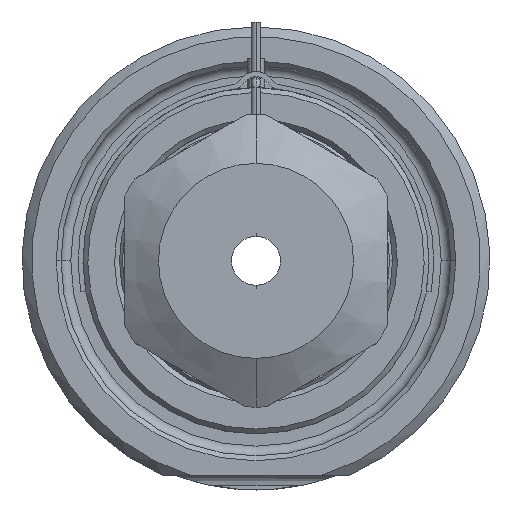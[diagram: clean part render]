
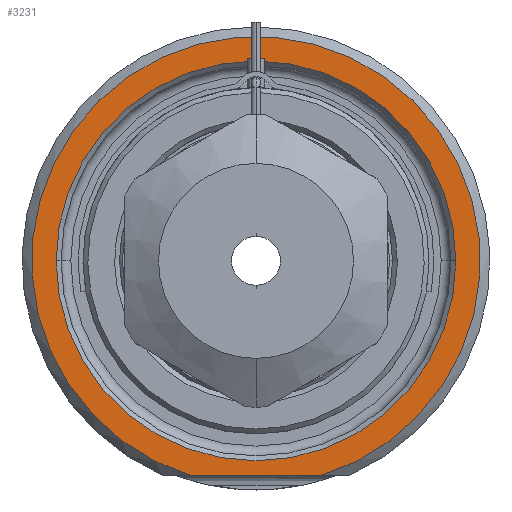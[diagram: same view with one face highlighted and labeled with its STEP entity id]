
A CAD part, front view. The second image highlights one B-rep face of the part: STEP entity #3231.
In plain terms, the highlighted planar face has unit normal (0, -1, 0).
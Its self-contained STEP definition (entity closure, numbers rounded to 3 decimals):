
#1=DIRECTION('',(1.,0.,0.));
#2=VECTOR('',#1,13.416);
#3=CARTESIAN_POINT('',(-6.708,0.,-22.));
#4=LINE('',#3,#2);
#5=CARTESIAN_POINT('',(0.,0.,0.));
#6=DIRECTION('',(0.,1.,0.));
#7=DIRECTION('',(-1.,0.,0.));
#8=AXIS2_PLACEMENT_3D('',#5,#6,#7);
#10=CARTESIAN_POINT('',(0.,0.,0.));
#11=DIRECTION('',(0.,1.,0.));
#12=DIRECTION('',(1.,0.,0.));
#13=AXIS2_PLACEMENT_3D('',#10,#11,#12);
#121=CARTESIAN_POINT('',(0.,0.,0.));
#122=DIRECTION('',(0.,-1.,0.));
#123=DIRECTION('',(0.292,0.,-0.957));
#124=AXIS2_PLACEMENT_3D('',#121,#122,#123);
#2685=CARTESIAN_POINT('',(-20.5,0.,0.));
#2686=CARTESIAN_POINT('',(20.5,0.,0.));
#2687=VERTEX_POINT('',#2685);
#2688=VERTEX_POINT('',#2686);
#2725=CARTESIAN_POINT('',(-6.708,0.,-22.));
#2726=CARTESIAN_POINT('',(6.708,0.,-22.));
#2727=VERTEX_POINT('',#2725);
#2728=VERTEX_POINT('',#2726);
#3214=CARTESIAN_POINT('',(0.,0.,0.));
#3215=DIRECTION('',(0.,-1.,0.));
#3216=DIRECTION('',(1.,0.,0.));
#3217=AXIS2_PLACEMENT_3D('',#3214,#3215,#3216);
#3218=PLANE('',#3217);
#3220=ORIENTED_EDGE('',*,*,#3219,.F.);
#3222=ORIENTED_EDGE('',*,*,#3221,.F.);
#3223=EDGE_LOOP('',(#3220,#3222));
#3224=FACE_OUTER_BOUND('',#3223,.F.);
#3226=ORIENTED_EDGE('',*,*,#3225,.F.);
#3228=ORIENTED_EDGE('',*,*,#3227,.F.);
#3229=EDGE_LOOP('',(#3226,#3228));
#3230=FACE_BOUND('',#3229,.F.);
#3231=ADVANCED_FACE('',(#3224,#3230),#3218,.T.);
#9=CIRCLE('',#8,20.5);
#14=CIRCLE('',#13,20.5);
#125=CIRCLE('',#124,23.);
#3219=EDGE_CURVE('',#2727,#2728,#4,.T.);
#3221=EDGE_CURVE('',#2728,#2727,#125,.T.);
#3225=EDGE_CURVE('',#2687,#2688,#9,.T.);
#3227=EDGE_CURVE('',#2688,#2687,#14,.T.);
